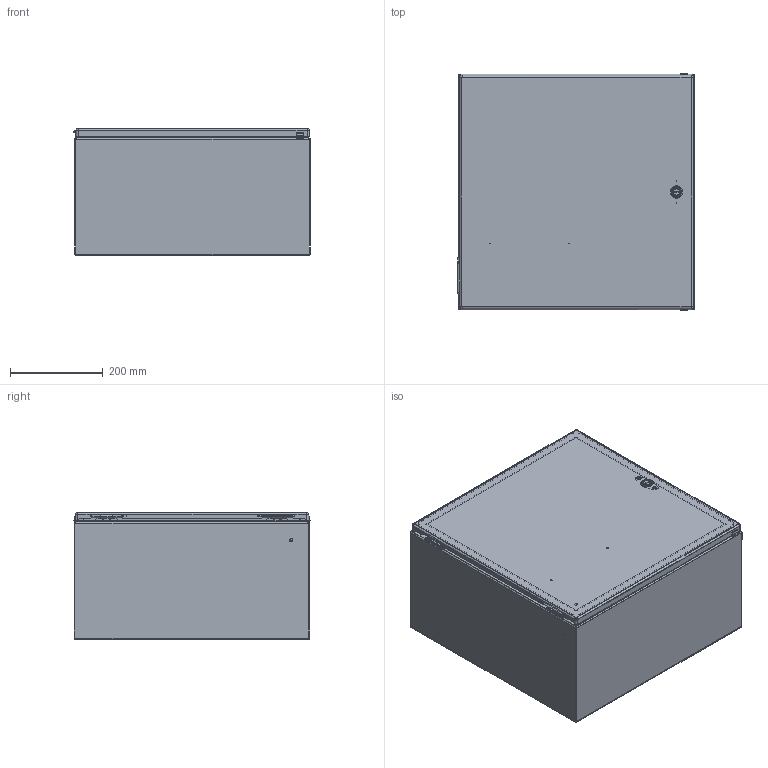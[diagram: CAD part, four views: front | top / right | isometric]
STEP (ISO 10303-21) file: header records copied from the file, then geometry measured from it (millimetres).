
FILE_DESCRIPTION (( 'STEP AP203' ), '1' );
FILE_NAME ('csd202010ss.STEP', '2014-07-14T17:06:22', ( 'User' ), ( 'Pentair Inc' ), 'SwSTEP 2.0', 'SolidWorks 2010', '' );
FILE_SCHEMA (( 'CONFIG_CONTROL_DESIGN' ));
Length unit declared in the file: inch
Products named in the file (28): 87929769_Installed on Pin; 87928711; 87930615; 64138001; 22318005; 87927840_87927840; 64203001; 64210001; 64202002; 87541995; 87541994_Installed Height; 64201001; 64101002; 87953335; 89103512; 99401226_After Weld; 87751114_87751114; 87953295_STD C''BORES; 87953294_weldment; 89103509; 89056623; 89076193; 89076399; 87543026; 23271002_After Weld; 87953365_C''Bores: Collar Studs; 87953364; csd202010ss
Assembly tree (39 placements, depth 4):
  csd202010ss
    89076399  x2
      89056623
      89076193
    87930615  x2
      87929769_Installed on Pin
      87928711
    89103509
      22318005  x2
      87953294_weldment
        87953335
        89103512
        99401226_After Weld
        87751114_87751114  x4
        87953295_STD C''BORES
      64101002
        87541994_Installed Height
        64201001
        87927840_87927840
        64203001
        64210001
        64202002
        87541995
      64138001  x2
    87543026  x2
    87953364
      23271002_After Weld  x4
      99401226_After Weld
      87953365_C''Bores: Collar Studs
Bounding box: 509.81 x 509.28 x 274.7 mm (x, y, z)
Volume: 1722737 mm3; surface area: 2416038.8 mm2
Topology: 36 solids, 36 shells, 1720 faces, 4212 edges, 2596 vertices
Faces by surface type: plane 734, cylinder 544, bspline 220, torus 142, cone 72, sphere 8
Entity records: 48768 total; most frequent: CARTESIAN_POINT 16147, ORIENTED_EDGE 6326, DIRECTION 5749, EDGE_CURVE 3163, AXIS2_PLACEMENT_3D 2084, VERTEX_POINT 1966, VECTOR 1581, LINE 1581
